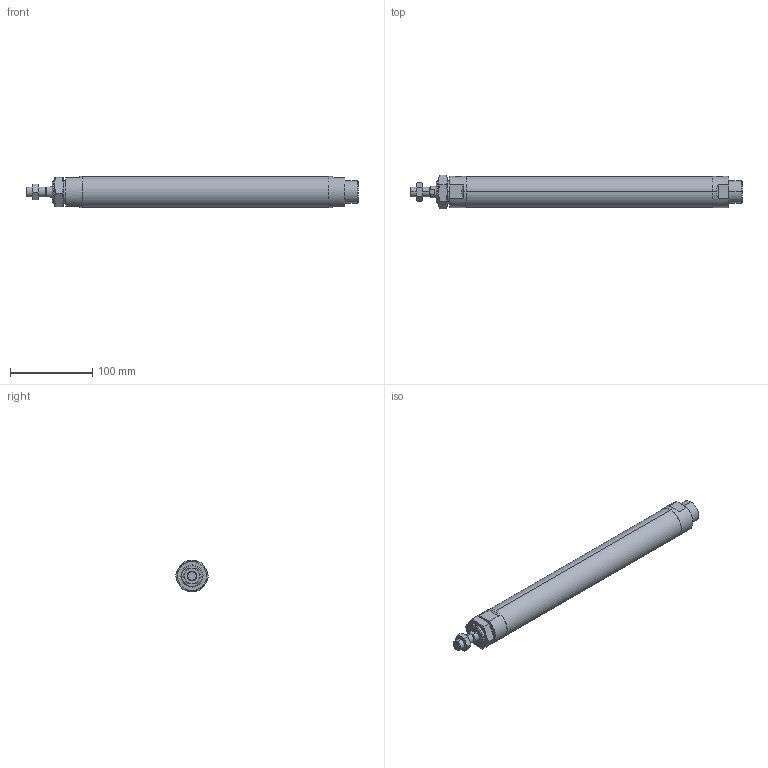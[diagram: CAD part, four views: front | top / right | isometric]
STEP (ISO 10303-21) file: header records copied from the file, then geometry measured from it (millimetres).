
FILE_DESCRIPTION (( 'STEP AP203' ), '1' );
FILE_NAME ('J#2-32-250-N.STEP', '2016-03-08T07:50:24', ( '' ), ( '' ), 'SwSTEP 2.0', 'SolidWorks 2014', '' );
FILE_SCHEMA (( 'CONFIG_CONTROL_DESIGN' ));
Length unit declared in the file: millimetre
Products named in the file (4): J#2-32-250-N; J#2-32-250
Assembly tree (3 placements, depth 2):
  J#2-32-250-N
    J#2-32-250
    (unnamed)
    (unnamed)
Bounding box: 403 x 40.33 x 38 mm (x, y, z)
Volume: 402492 mm3; surface area: 51553.2 mm2
Topology: 3 solids, 3 shells, 94 faces, 210 edges, 125 vertices
Faces by surface type: plane 33, torus 24, cylinder 22, cone 15
Entity records: 3451 total; most frequent: CARTESIAN_POINT 1038, DIRECTION 421, ORIENTED_EDGE 412, EDGE_CURVE 206, AXIS2_PLACEMENT_3D 178, VERTEX_POINT 125, EDGE_LOOP 105, FACE_OUTER_BOUND 94
